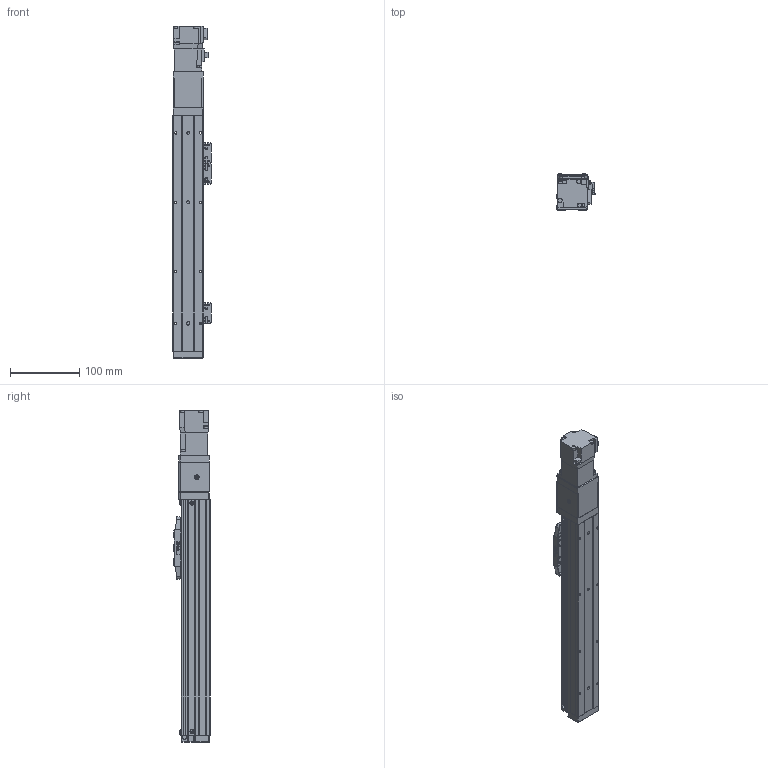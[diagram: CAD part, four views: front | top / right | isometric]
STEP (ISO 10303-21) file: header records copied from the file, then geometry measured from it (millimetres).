
FILE_DESCRIPTION (( 'STEP AP203' ), '1' );
FILE_NAME ('GTH4-200-BC-M05-C4.STEP', '2024-01-05T01:02:27', ( '' ), ( '' ), 'SwSTEP 2.0', 'SolidWorks 2020', '' );
FILE_SCHEMA (( 'CONFIG_CONTROL_DESIGN' ));
Length unit declared in the file: millimetre
Products named in the file (19): BTH-M3X5X6; GBT 70.1-M2.5×6; BTH50-028; BTH40-013; HG-KR13; GBT96.1-2002 3×0.8; BTH50-024; BTH40-006; GBT 70.3-M3℅6; BTH40-022; BTH40-017_笢俶; BTH40-004; BTH40-001-50_BTH40-001-200; GBT 70.1-M3℅6; GBT70.1-2000 M3×16; BTH40-003; BTH50-023; BTH40-005-1; GTH4-200-BC-M05-C4
Assembly tree (49 placements, depth 2):
  GTH4-200-BC-M05-C4
    BTH40-001-50_BTH40-001-200
    BTH40-003
    BTH40-006
    BTH-M3X5X6  x10
    GBT70.1-2000 M3×16  x4
    BTH50-028  x2
    BTH50-023  x3
    BTH50-024  x3
    GBT 70.1-M3℅6  x6
    GBT96.1-2002 3×0.8  x6
    BTH40-022
    GBT 70.1-M2.5×6  x2
    BTH40-004
    BTH40-013
    HG-KR13
    GBT 70.3-M3℅6  x4
    BTH40-017_笢俶
    BTH40-005-1
Bounding box: 55.2 x 52 x 479.4 mm (x, y, z)
Volume: 770988.2 mm3; surface area: 166100.9 mm2
Topology: 51 solids, 51 shells, 1852 faces, 4338 edges, 2678 vertices
Faces by surface type: plane 1026, cylinder 453, cone 237, torus 132, sphere 4
Entity records: 33848 total; most frequent: CARTESIAN_POINT 5475, DIRECTION 5461, ORIENTED_EDGE 5138, EDGE_CURVE 2569, AXIS2_PLACEMENT_3D 1827, LINE 1807, VECTOR 1807, VERTEX_POINT 1609
